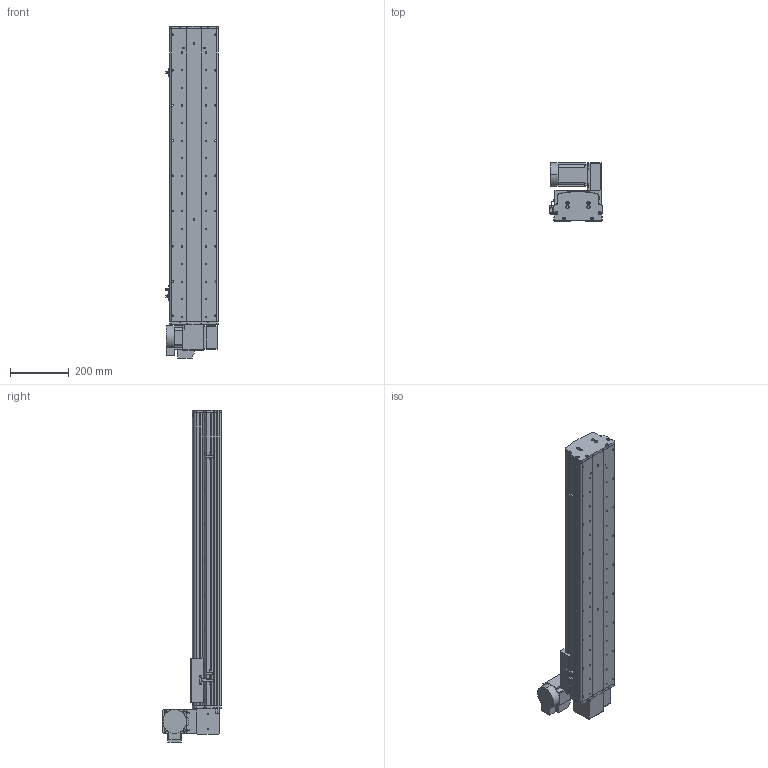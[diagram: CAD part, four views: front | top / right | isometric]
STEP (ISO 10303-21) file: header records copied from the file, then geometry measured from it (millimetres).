
FILE_DESCRIPTION (( 'STEP AP214' ), '1' );
FILE_NAME ('KSD165B-S750-MRU-CM.STEP', '2017-10-17T02:27:10', ( '微软用户' ), ( '微软中国' ), 'SwSTEP 2.0', 'SolidWorks 2014', '' );
FILE_SCHEMA (( 'AUTOMOTIVE_DESIGN' ));
Length unit declared in the file: millimetre
Products named in the file (17): KSD165模组同步带底板-750行程-最新; 拸秶雄ん750W侜督萇儂; 165宽马达安装板同步带右; U倰嫖萇假蚾璃; U倰嫖萇EEㄜSX672; 覜茼え68遵圉猾敕; KSD165模组-同步带-防撞垫2; KSD165模组同步带-防撞垫1; KSD165耀郪-ヶ傷啣1-肮祭湍; KSD165模组-后端板1-同步带; KSD165模组-同步带滑动座-最新版; KSD165B-S750-MRU-CM; 130宽模组马达安装板连板上下折丝杆同步带; 130宽模组保护罩上下左右折-同步带; HTPA26S5M250-A-H8 750W萇儂蚚; HTPA26S5M250-A-H8 400W萇儂蚚 ; KSD165模组-同步带防尘盖1-750行程-最新版
Assembly tree (20 placements, depth 2):
  KSD165B-S750-MRU-CM
    KSD165模组-同步带滑动座-最新版
    KSD165模组-后端板1-同步带
    KSD165耀郪-ヶ傷啣1-肮祭湍
    KSD165模组同步带-防撞垫1
    KSD165模组-同步带-防撞垫2
    覜茼え68遵圉猾敕
    U倰嫖萇EEㄜSX672  x3
    U倰嫖萇假蚾璃  x3
    165宽马达安装板同步带右
    拸秶雄ん750W侜督萇儂
    KSD165模组同步带底板-750行程-最新
    KSD165模组-同步带防尘盖1-750行程-最新版
    HTPA26S5M250-A-H8 400W萇儂蚚 
    HTPA26S5M250-A-H8 750W萇儂蚚
    130宽模组保护罩上下左右折-同步带
    130宽模组马达安装板连板上下折丝杆同步带
Bounding box: 178.7 x 198 x 1130.5 mm (x, y, z)
Volume: 6787659.2 mm3; surface area: 1575458.1 mm2
Topology: 21 solids, 21 shells, 1939 faces, 5472 edges, 3572 vertices
Faces by surface type: cylinder 1243, plane 584, cone 112
Entity records: 62772 total; most frequent: CARTESIAN_POINT 12868, DIRECTION 10332, ORIENTED_EDGE 9604, EDGE_CURVE 4802, AXIS2_PLACEMENT_3D 4050, VERTEX_POINT 3164, CIRCLE 2308, VECTOR 2232
